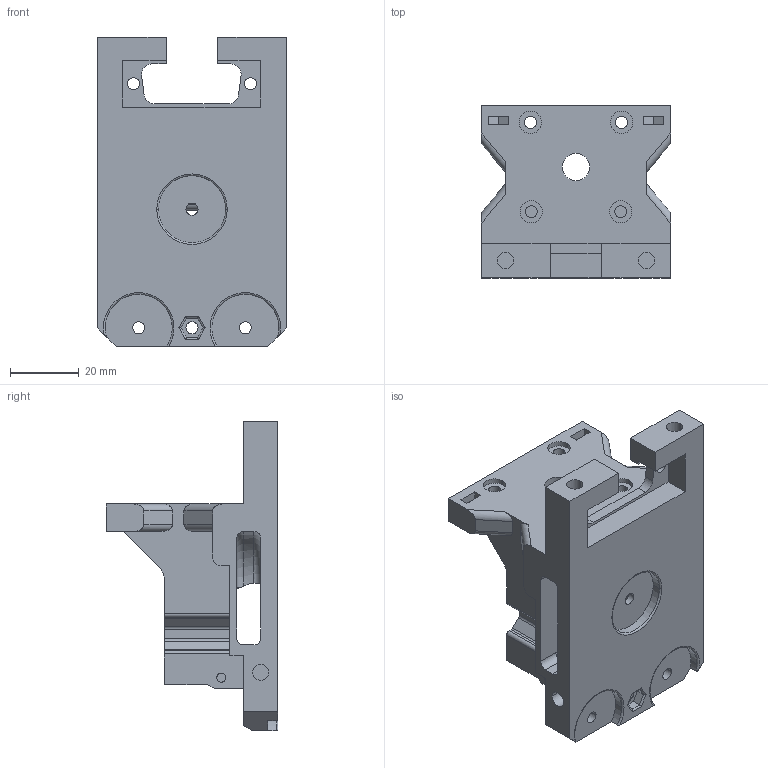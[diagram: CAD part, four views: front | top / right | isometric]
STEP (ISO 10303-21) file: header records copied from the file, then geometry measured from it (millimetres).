
FILE_DESCRIPTION(('CATIA V5 STEP Exchange'),'2;1');
FILE_NAME('C:\Users\Bruno-Win\Desktop\V2.1 Head\HYPERCUBE-EVO-0006_NGEN_V2.stp','2021-03-26T07:35:25+00:00',('none'),('none'),'CATIA Version 5-6 Release 2017','CATIA V5 STEP AP203','none');
FILE_SCHEMA(('CONFIG_CONTROL_DESIGN'));
Length unit declared in the file: millimetre
Products named in the file (1): HYPERCUBE-EVO-0006_NGEN_V2
Bounding box: 55 x 50 x 90 mm (x, y, z)
Volume: 59084.9 mm3; surface area: 28074.2 mm2
Topology: 1 solids, 1 shells, 321 faces, 889 edges, 586 vertices
Faces by surface type: plane 171, cylinder 125, torus 16, bspline 6, cone 2, extrusion 1
Entity records: 10858 total; most frequent: CARTESIAN_POINT 3159, ORIENTED_EDGE 1778, DIRECTION 1219, EDGE_CURVE 889, VERTEX_POINT 586, VECTOR 582, LINE 581, AXIS2_PLACEMENT_3D 433
